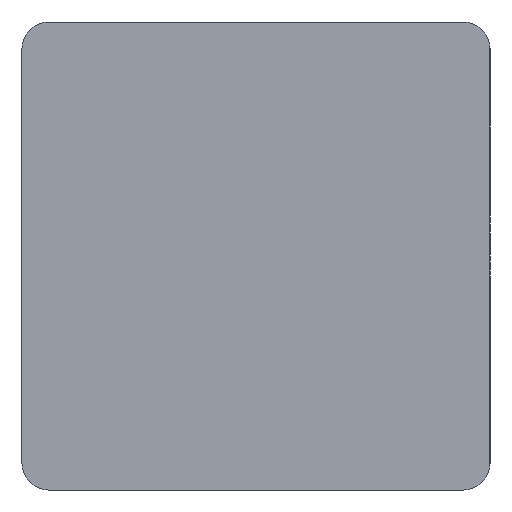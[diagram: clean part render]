
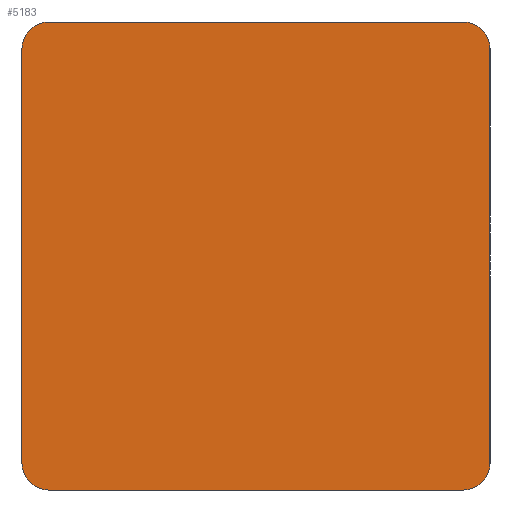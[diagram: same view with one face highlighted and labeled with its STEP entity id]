
A CAD part, left-side view. The second image highlights one B-rep face of the part: STEP entity #5183.
In plain terms, the highlighted planar face has unit normal (-1, 0, 0).
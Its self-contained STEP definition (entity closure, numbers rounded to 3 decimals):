
#27=CIRCLE('',#5357,12.5);
#28=CIRCLE('',#5360,12.5);
#29=CIRCLE('',#5362,12.5);
#30=CIRCLE('',#5364,12.5);
#730=FACE_OUTER_BOUND('',#1027,.T.);
#1027=EDGE_LOOP('',(#4698,#4699,#4700,#4701,#4702,#4703,#4704,#4705));
#1497=LINE('',#8843,#1969);
#1502=LINE('',#8856,#1974);
#1506=LINE('',#8867,#1978);
#1507=LINE('',#8869,#1979);
#1969=VECTOR('',#6119,10.);
#1974=VECTOR('',#6134,10.);
#1978=VECTOR('',#6148,10.);
#1979=VECTOR('',#6149,10.);
#2476=VERTEX_POINT('',#8840);
#2477=VERTEX_POINT('',#8842);
#2478=VERTEX_POINT('',#8849);
#2479=VERTEX_POINT('',#8850);
#2480=VERTEX_POINT('',#8855);
#2481=VERTEX_POINT('',#8861);
#2482=VERTEX_POINT('',#8863);
#2483=VERTEX_POINT('',#8868);
#3217=EDGE_CURVE('',#2476,#2477,#1497,.T.);
#3220=EDGE_CURVE('',#2478,#2479,#27,.T.);
#3223=EDGE_CURVE('',#2479,#2480,#1502,.T.);
#3225=EDGE_CURVE('',#2480,#2476,#28,.T.);
#3227=EDGE_CURVE('',#2481,#2482,#29,.T.);
#3229=EDGE_CURVE('',#2478,#2482,#1506,.T.);
#3230=EDGE_CURVE('',#2483,#2481,#1507,.T.);
#3231=EDGE_CURVE('',#2477,#2483,#30,.T.);
#4698=ORIENTED_EDGE('',*,*,#3220,.F.);
#4699=ORIENTED_EDGE('',*,*,#3229,.T.);
#4700=ORIENTED_EDGE('',*,*,#3227,.F.);
#4701=ORIENTED_EDGE('',*,*,#3230,.F.);
#4702=ORIENTED_EDGE('',*,*,#3231,.F.);
#4703=ORIENTED_EDGE('',*,*,#3217,.F.);
#4704=ORIENTED_EDGE('',*,*,#3225,.F.);
#4705=ORIENTED_EDGE('',*,*,#3223,.F.);
#4914=PLANE('',#5363);
#5183=ADVANCED_FACE('',(#730),#4914,.T.);
#5357=AXIS2_PLACEMENT_3D('',#8851,#6128,#6129);
#5360=AXIS2_PLACEMENT_3D('',#8859,#6138,#6139);
#5362=AXIS2_PLACEMENT_3D('',#8864,#6143,#6144);
#5363=AXIS2_PLACEMENT_3D('',#8866,#6146,#6147);
#5364=AXIS2_PLACEMENT_3D('',#8870,#6150,#6151);
#6119=DIRECTION('',(0.,0.,1.));
#6128=DIRECTION('center_axis',(1.,0.,0.));
#6129=DIRECTION('ref_axis',(0.,-0.707,-0.707));
#6134=DIRECTION('',(0.,1.,0.));
#6138=DIRECTION('center_axis',(1.,0.,0.));
#6139=DIRECTION('ref_axis',(0.,0.707,-0.707));
#6143=DIRECTION('center_axis',(1.,0.,0.));
#6144=DIRECTION('ref_axis',(0.,-0.707,0.707));
#6146=DIRECTION('center_axis',(-1.,0.,0.));
#6147=DIRECTION('ref_axis',(0.,-1.,0.));
#6148=DIRECTION('',(0.,0.,1.));
#6149=DIRECTION('',(0.,-1.,0.));
#6150=DIRECTION('center_axis',(1.,0.,0.));
#6151=DIRECTION('ref_axis',(0.,0.707,0.707));
#8840=CARTESIAN_POINT('',(-45.,220.,-102.5));
#8842=CARTESIAN_POINT('',(-45.,220.,92.5));
#8843=CARTESIAN_POINT('',(-45.,220.,5.));
#8849=CARTESIAN_POINT('',(-45.,0.,-102.5));
#8850=CARTESIAN_POINT('',(-45.,12.5,-115.));
#8851=CARTESIAN_POINT('Origin',(-45.,12.5,-102.5));
#8855=CARTESIAN_POINT('',(-45.,207.5,-115.));
#8856=CARTESIAN_POINT('',(-45.,0.,-115.));
#8859=CARTESIAN_POINT('Origin',(-45.,207.5,-102.5));
#8861=CARTESIAN_POINT('',(-45.,12.5,105.));
#8863=CARTESIAN_POINT('',(-45.,0.,92.5));
#8864=CARTESIAN_POINT('Origin',(-45.,12.5,92.5));
#8866=CARTESIAN_POINT('Origin',(-45.,220.,5.));
#8867=CARTESIAN_POINT('',(-45.,0.,5.));
#8868=CARTESIAN_POINT('',(-45.,207.5,105.));
#8869=CARTESIAN_POINT('',(-45.,0.,105.));
#8870=CARTESIAN_POINT('Origin',(-45.,207.5,92.5));
